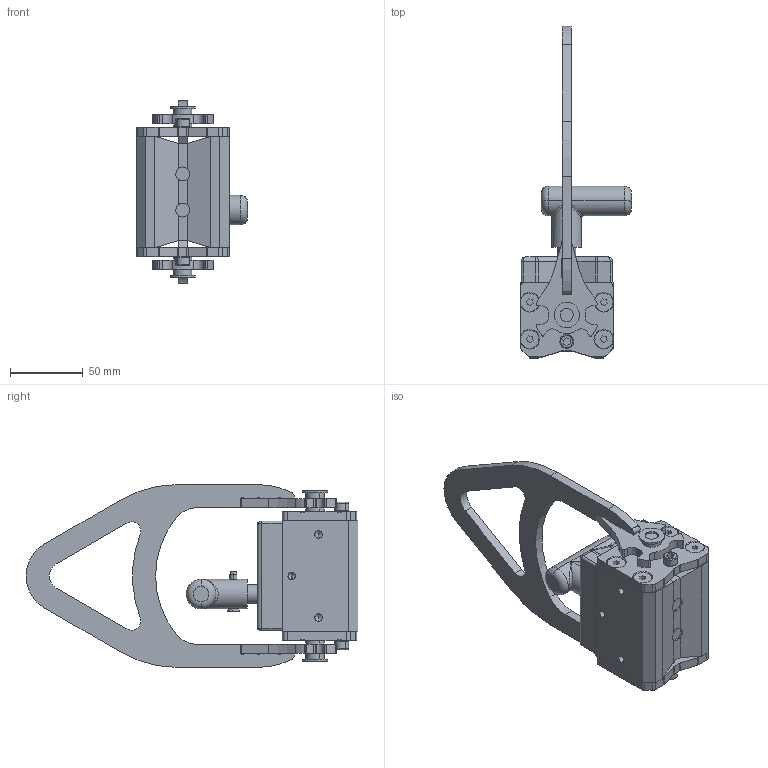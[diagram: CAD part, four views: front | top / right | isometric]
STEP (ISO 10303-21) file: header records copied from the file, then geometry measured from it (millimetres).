
FILE_DESCRIPTION (( 'STEP AP203' ), '1' );
FILE_NAME ('DL0150.STEP', '2018-08-02T18:15:27', ( '' ), ( '' ), 'SwSTEP 2.0', 'SolidWorks 2015', '' );
FILE_SCHEMA (( 'CONFIG_CONTROL_DESIGN' ));
Length unit declared in the file: inch
Products named in the file (1): DL0150
Bounding box: 76.2 x 227.8 x 125.41 mm (x, y, z)
Volume: 387656.7 mm3; surface area: 124018.8 mm2
Topology: 32 solids, 32 shells, 1584 faces, 3596 edges, 2047 vertices
Faces by surface type: cylinder 619, cone 564, plane 319, torus 52, bspline 16, sphere 14
Entity records: 44639 total; most frequent: CARTESIAN_POINT 8758, DIRECTION 8150, ORIENTED_EDGE 7030, EDGE_CURVE 3515, AXIS2_PLACEMENT_3D 3163, VERTEX_POINT 2040, LINE 1824, VECTOR 1824
